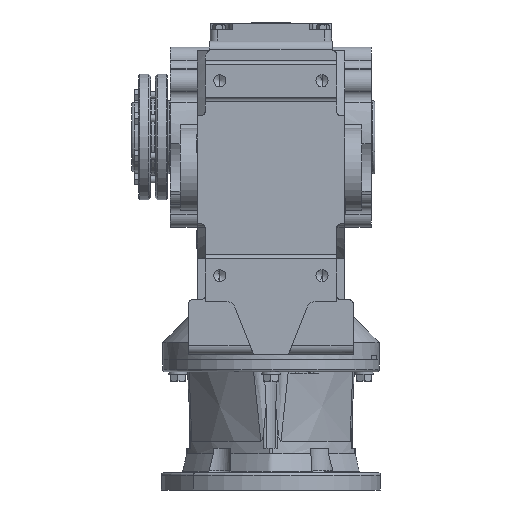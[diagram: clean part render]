
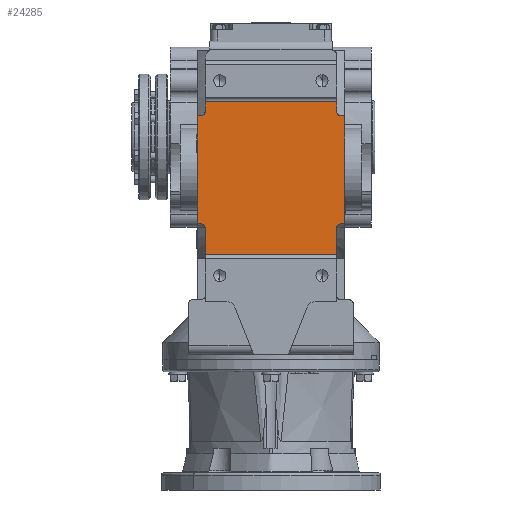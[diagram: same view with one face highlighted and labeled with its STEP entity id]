
A CAD part, front view. The second image highlights one B-rep face of the part: STEP entity #24285.
In plain terms, the highlighted planar face has unit normal (0, -1, 0).
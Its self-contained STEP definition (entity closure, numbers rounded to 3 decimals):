
#1113 = AXIS2_PLACEMENT_3D ( 'NONE', #55342, #55350, #55351 ) ;
#4648 = CARTESIAN_POINT ( 'NONE',  ( 81., -206., -100. ) ) ;
#4656 = CARTESIAN_POINT ( 'NONE',  ( 81., -206., 24.651 ) ) ;
#4677 = CARTESIAN_POINT ( 'NONE',  ( 76., -206., -105. ) ) ;
#4707 = CARTESIAN_POINT ( 'NONE',  ( -81., -206., -100. ) ) ;
#4713 = CARTESIAN_POINT ( 'NONE',  ( 85., -206., -100. ) ) ;
#4746 = CARTESIAN_POINT ( 'NONE',  ( 76., -206., -135.346 ) ) ;
#4764 = CARTESIAN_POINT ( 'NONE',  ( -76., -206., -105. ) ) ;
#4765 = CARTESIAN_POINT ( 'NONE',  ( -81., -206., 24.651 ) ) ;
#4787 = CARTESIAN_POINT ( 'NONE',  ( -76., -206., -135.346 ) ) ;
#4803 = CARTESIAN_POINT ( 'NONE',  ( -76., -206., 29.651 ) ) ;
#4835 = CARTESIAN_POINT ( 'NONE',  ( 76., -206., 41. ) ) ;
#4843 = CARTESIAN_POINT ( 'NONE',  ( -76., -206., 41. ) ) ;
#4849 = CARTESIAN_POINT ( 'NONE',  ( 76., -206., 29.651 ) ) ;
#4868 = CARTESIAN_POINT ( 'NONE',  ( 85., -206., 24.651 ) ) ;
#5706 = CARTESIAN_POINT ( 'NONE',  ( -85., -206., 24.651 ) ) ;
#5716 = CARTESIAN_POINT ( 'NONE',  ( -85., -206., -100. ) ) ;
#8207 = CARTESIAN_POINT ( 'NONE',  ( 76., -206., -100. ) ) ;
#8208 = DIRECTION ( 'NONE',  ( 1., 0., 0. ) ) ;
#8248 = CARTESIAN_POINT ( 'NONE',  ( 85., -206., 24.651 ) ) ;
#8250 = DIRECTION ( 'NONE',  ( 1., 0., 0. ) ) ;
#10835 = CARTESIAN_POINT ( 'NONE',  ( -76., -206., 24.651 ) ) ;
#10838 = DIRECTION ( 'NONE',  ( 1., 0., 0. ) ) ;
#10860 = CARTESIAN_POINT ( 'NONE',  ( 85., -206., 7. ) ) ;
#10863 = DIRECTION ( 'NONE',  ( 0., 0., -1. ) ) ;
#10864 = CARTESIAN_POINT ( 'NONE',  ( -85., -206., 7. ) ) ;
#10867 = DIRECTION ( 'NONE',  ( 0., 0., 1. ) ) ;
#10869 = CARTESIAN_POINT ( 'NONE',  ( -76., -206., -103. ) ) ;
#10872 = DIRECTION ( 'NONE',  ( 0., 0., 1. ) ) ;
#10884 = CARTESIAN_POINT ( 'NONE',  ( -76., -206., -100. ) ) ;
#10886 = DIRECTION ( 'NONE',  ( -1., 0., 0. ) ) ;
#18629 = VECTOR ( 'NONE', #47530, 1000. ) ;
#18640 = LINE ( 'NONE', #47529, #18629 ) ;
#18686 = LINE ( 'NONE', #47537, #21537 ) ;
#21475 = CIRCLE ( 'NONE', #37028, 5. ) ;
#21537 = VECTOR ( 'NONE', #47538, 1000. ) ;
#21598 = CIRCLE ( 'NONE', #37008, 5. ) ;
#21850 = ORIENTED_EDGE ( 'NONE', *, *, #28433, .T. ) ;
#21906 = ORIENTED_EDGE ( 'NONE', *, *, #45953, .F. ) ;
#21918 = ORIENTED_EDGE ( 'NONE', *, *, #45963, .F. ) ;
#21936 = ORIENTED_EDGE ( 'NONE', *, *, #45970, .F. ) ;
#21938 = ORIENTED_EDGE ( 'NONE', *, *, #28497, .T. ) ;
#21961 = ORIENTED_EDGE ( 'NONE', *, *, #45965, .F. ) ;
#21965 = ORIENTED_EDGE ( 'NONE', *, *, #51838, .F. ) ;
#21969 = ORIENTED_EDGE ( 'NONE', *, *, #28448, .F. ) ;
#21971 = ORIENTED_EDGE ( 'NONE', *, *, #28504, .T. ) ;
#22160 = ORIENTED_EDGE ( 'NONE', *, *, #45585, .F. ) ;
#22164 = ORIENTED_EDGE ( 'NONE', *, *, #51916, .T. ) ;
#22171 = ORIENTED_EDGE ( 'NONE', *, *, #45961, .F. ) ;
#22181 = ORIENTED_EDGE ( 'NONE', *, *, #28616, .F. ) ;
#22208 = ORIENTED_EDGE ( 'NONE', *, *, #45566, .T. ) ;
#22214 = ORIENTED_EDGE ( 'NONE', *, *, #51884, .T. ) ;
#22779 = ORIENTED_EDGE ( 'NONE', *, *, #51834, .T. ) ;
#24285 = ADVANCED_FACE ( 'NONE', ( #33566 ), #55347, .T. ) ;
#25347 = EDGE_LOOP ( 'NONE', ( #21965, #22779, #21969, #21850, #21906, #21918, #21936, #21938, #21961, #21971, #22181, #22214, #22208, #22171, #22160, #22164 ) ) ;
#27271 = LINE ( 'NONE', #8248, #28351 ) ;
#27416 = LINE ( 'NONE', #8207, #27418 ) ;
#27418 = VECTOR ( 'NONE', #8208, 1000. ) ;
#28351 = VECTOR ( 'NONE', #8250, 1000. ) ;
#28433 = EDGE_CURVE ( 'NONE', #31028, #30959, #34909, .T. ) ;
#28448 = EDGE_CURVE ( 'NONE', #31028, #31092, #44911, .T. ) ;
#28497 = EDGE_CURVE ( 'NONE', #30810, #30946, #44827, .T. ) ;
#28504 = EDGE_CURVE ( 'NONE', #31023, #30908, #44875, .T. ) ;
#28616 = EDGE_CURVE ( 'NONE', #30695, #30908, #46164, .T. ) ;
#30404 = VERTEX_POINT ( 'NONE', #4648 ) ;
#30429 = VERTEX_POINT ( 'NONE', #4656 ) ;
#30695 = VERTEX_POINT ( 'NONE', #4677 ) ;
#30810 = VERTEX_POINT ( 'NONE', #4707 ) ;
#30812 = VERTEX_POINT ( 'NONE', #4713 ) ;
#30908 = VERTEX_POINT ( 'NONE', #4746 ) ;
#30946 = VERTEX_POINT ( 'NONE', #4764 ) ;
#30959 = VERTEX_POINT ( 'NONE', #4765 ) ;
#31023 = VERTEX_POINT ( 'NONE', #4787 ) ;
#31028 = VERTEX_POINT ( 'NONE', #4803 ) ;
#31075 = VERTEX_POINT ( 'NONE', #4835 ) ;
#31092 = VERTEX_POINT ( 'NONE', #4843 ) ;
#31094 = VERTEX_POINT ( 'NONE', #4849 ) ;
#31127 = VERTEX_POINT ( 'NONE', #4868 ) ;
#33566 = FACE_OUTER_BOUND ( 'NONE', #25347, .T. ) ;
#34232 = VERTEX_POINT ( 'NONE', #5706 ) ;
#34261 = VERTEX_POINT ( 'NONE', #5716 ) ;
#34909 = CIRCLE ( 'NONE', #59940, 5. ) ;
#37008 = AXIS2_PLACEMENT_3D ( 'NONE', #47728, #47729, #47730 ) ;
#37028 = AXIS2_PLACEMENT_3D ( 'NONE', #47922, #47923, #47924 ) ;
#42370 = VECTOR ( 'NONE', #10867, 1000. ) ;
#43414 = VECTOR ( 'NONE', #10872, 1000. ) ;
#43434 = LINE ( 'NONE', #10884, #43460 ) ;
#43460 = VECTOR ( 'NONE', #10886, 1000. ) ;
#43640 = LINE ( 'NONE', #10860, #43651 ) ;
#43642 = VECTOR ( 'NONE', #10838, 1000. ) ;
#43651 = VECTOR ( 'NONE', #10863, 1000. ) ;
#43656 = LINE ( 'NONE', #10869, #43414 ) ;
#43660 = LINE ( 'NONE', #10864, #42370 ) ;
#43786 = LINE ( 'NONE', #10835, #43642 ) ;
#44827 = CIRCLE ( 'NONE', #59955, 5. ) ;
#44865 = VECTOR ( 'NONE', #63100, 1000. ) ;
#44875 = LINE ( 'NONE', #63099, #44865 ) ;
#44911 = LINE ( 'NONE', #62920, #44987 ) ;
#44987 = VECTOR ( 'NONE', #62915, 1000. ) ;
#45566 = EDGE_CURVE ( 'NONE', #30404, #30812, #27416, .T. ) ;
#45585 = EDGE_CURVE ( 'NONE', #30429, #31127, #27271, .T. ) ;
#45953 = EDGE_CURVE ( 'NONE', #34232, #30959, #43786, .T. ) ;
#45961 = EDGE_CURVE ( 'NONE', #31127, #30812, #43640, .T. ) ;
#45963 = EDGE_CURVE ( 'NONE', #34261, #34232, #43660, .T. ) ;
#45965 = EDGE_CURVE ( 'NONE', #31023, #30946, #43656, .T. ) ;
#45970 = EDGE_CURVE ( 'NONE', #30810, #34261, #43434, .T. ) ;
#46164 = LINE ( 'NONE', #63519, #46192 ) ;
#46192 = VECTOR ( 'NONE', #63481, 1000. ) ;
#47529 = CARTESIAN_POINT ( 'NONE',  ( -112., -206., 41. ) ) ;
#47530 = DIRECTION ( 'NONE',  ( -1., 0., 0. ) ) ;
#47537 = CARTESIAN_POINT ( 'NONE',  ( 76., -206., 46. ) ) ;
#47538 = DIRECTION ( 'NONE',  ( 0., 0., -1. ) ) ;
#47728 = CARTESIAN_POINT ( 'NONE',  ( 81., -206., -105. ) ) ;
#47729 = DIRECTION ( 'NONE',  ( 0., 1., 0. ) ) ;
#47730 = DIRECTION ( 'NONE',  ( 0., 0., -1. ) ) ;
#47922 = CARTESIAN_POINT ( 'NONE',  ( 81., -206., 29.651 ) ) ;
#47923 = DIRECTION ( 'NONE',  ( 0., 1., 0. ) ) ;
#47924 = DIRECTION ( 'NONE',  ( 0., 0., -1. ) ) ;
#51834 = EDGE_CURVE ( 'NONE', #31075, #31092, #18640, .T. ) ;
#51838 = EDGE_CURVE ( 'NONE', #31075, #31094, #18686, .T. ) ;
#51884 = EDGE_CURVE ( 'NONE', #30695, #30404, #21598, .T. ) ;
#51916 = EDGE_CURVE ( 'NONE', #30429, #31094, #21475, .T. ) ;
#55342 = CARTESIAN_POINT ( 'NONE',  ( -112., -206., 7. ) ) ;
#55347 = PLANE ( 'NONE',  #1113 ) ;
#55350 = DIRECTION ( 'NONE',  ( 0., -1., 0. ) ) ;
#55351 = DIRECTION ( 'NONE',  ( 0., 0., -1. ) ) ;
#59940 = AXIS2_PLACEMENT_3D ( 'NONE', #62874, #62875, #62876 ) ;
#59955 = AXIS2_PLACEMENT_3D ( 'NONE', #63081, #63082, #63083 ) ;
#62874 = CARTESIAN_POINT ( 'NONE',  ( -81., -206., 29.651 ) ) ;
#62875 = DIRECTION ( 'NONE',  ( 0., 1., 0. ) ) ;
#62876 = DIRECTION ( 'NONE',  ( 0., 0., -1. ) ) ;
#62915 = DIRECTION ( 'NONE',  ( 0., 0., 1. ) ) ;
#62920 = CARTESIAN_POINT ( 'NONE',  ( -76., -206., 46. ) ) ;
#63081 = CARTESIAN_POINT ( 'NONE',  ( -81., -206., -105. ) ) ;
#63082 = DIRECTION ( 'NONE',  ( 0., 1., 0. ) ) ;
#63083 = DIRECTION ( 'NONE',  ( 0., 0., -1. ) ) ;
#63099 = CARTESIAN_POINT ( 'NONE',  ( -112., -206., -135.346 ) ) ;
#63100 = DIRECTION ( 'NONE',  ( 1., 0., 0. ) ) ;
#63481 = DIRECTION ( 'NONE',  ( 0., 0., -1. ) ) ;
#63519 = CARTESIAN_POINT ( 'NONE',  ( 76., -206., -100. ) ) ;
